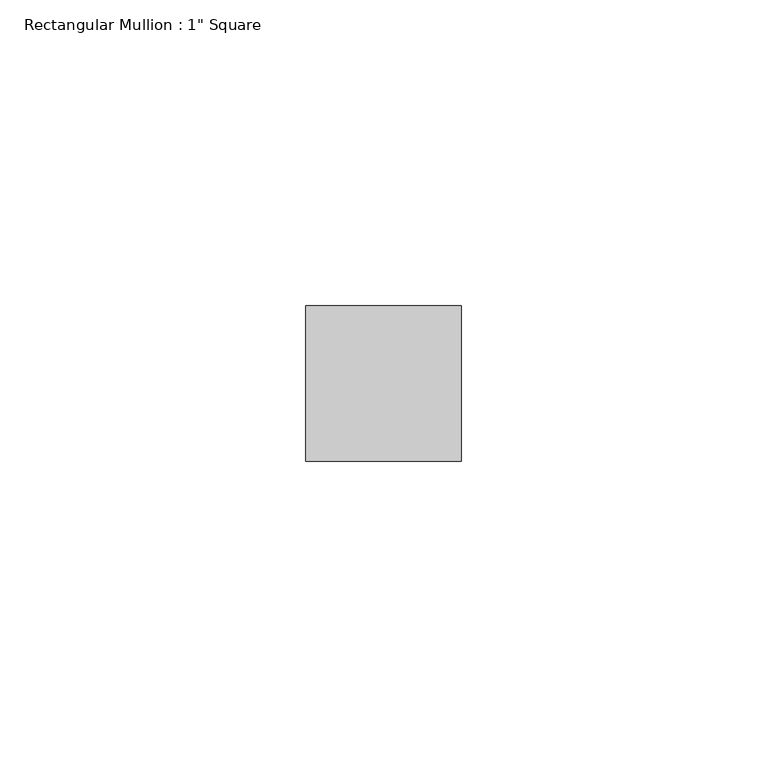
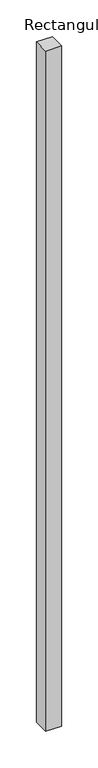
"""IFC4 building model written with IfcOpenShell, lengths in millimetres: member geometry."""

from ifc_helpers import new_model, si_unit, frame, origin, place, context, project, spatial, polyline, outline, extrude, source, transform, mapped, element, save


def member_dc232313(model_context):
    return source(origin(), model_context, "Body", "SweptSolid", [
        extrude(outline(polyline([(12.7, 12.7), (12.7, -12.7), (-12.7, -12.7), (-12.7, 12.7), (12.7, 12.7)])), frame((0.0, 0.0, -1137.1575505), z_axis=(0.0, 0.0, 1.0), x_axis=(1.0, 0.0, 0.0)), (0.0, 0.0, 1.0), 1137.1575505),
    ])


if __name__ == "__main__":
    model = new_model("IFC4")
    model_context = context("Model", 3, world=origin())
    ifc_project = project(units=[si_unit("LENGTHUNIT", "METRE", prefix="MILLI")], contexts=[model_context])
    site = spatial("IfcSite", under=ifc_project)
    building = spatial("IfcBuilding", under=site)
    placement = place(None, origin())
    member_shape = member_dc232313(model_context)
    element("IfcMember", 1, ObjectType="Rectangular Mullion : 1\" Square", at=placement, inside=building, context=model_context, shape_type="MappedRepresentation", body=[
        mapped(member_shape, transform((0.0, 0.0, 0.0), x_axis=(1.0, 0.0, 0.0), y_axis=(0.0, 1.0, 0.0), z_axis=(0.0, 0.0, 1.0))),
    ])
    save(model, "model.ifc")
